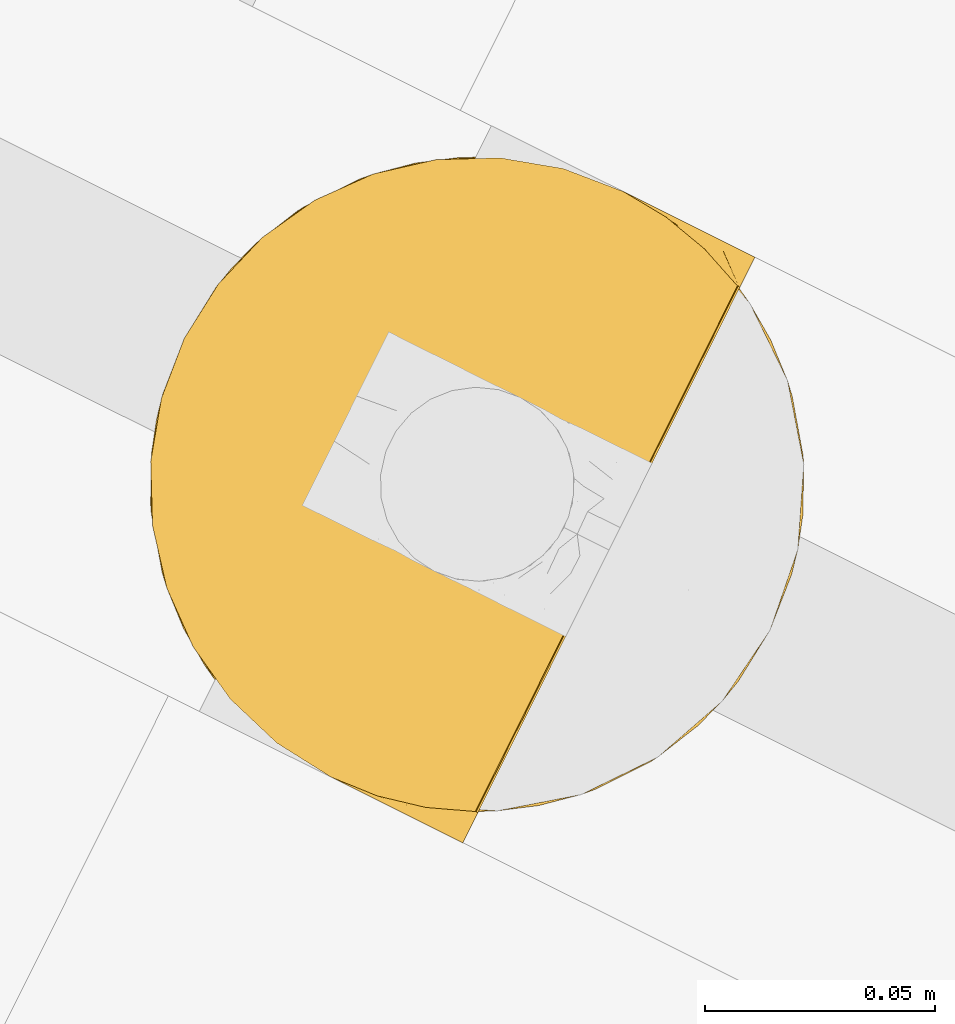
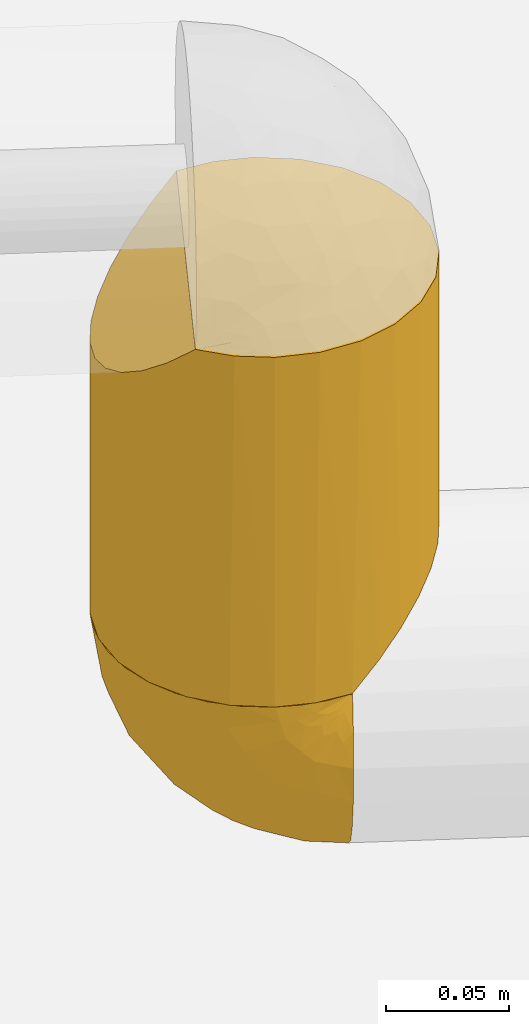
# One storey, part 53 of 91: 2 coverings.
"""IFC2X3 building model written with IfcOpenShell, lengths in metres."""

from ifc_helpers import new_model, entity, si_unit, converted_unit, derived_unit, direction, frame, origin, place, context, subcontext, project, spatial, faceted_brep, element, save


model = new_model("IFC2X3")

# Units and contexts
model_context = context("Model", 3, precision=1e-05, world=origin(), true_north=direction((0.894925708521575, 0.446215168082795)))
context_of_model = context(None, 3, precision=1e-05, world=origin(), true_north=direction((0.894925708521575, 0.446215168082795)))
body_context = subcontext(model_context, "Body", "Model", "MODEL_VIEW")
ifc_project = project(units=[si_unit("LENGTHUNIT", "METRE"), si_unit("AREAUNIT", "SQUARE_METRE"), si_unit("VOLUMEUNIT", "CUBIC_METRE"), converted_unit("PLANEANGLEUNIT", "DEGREE", entity("IfcRatioMeasure", 0.0174532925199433), si_unit("PLANEANGLEUNIT", "RADIAN"), dimensions=[0, 0, 0, 0, 0, 0, 0]), si_unit("MASSUNIT", "GRAM", prefix="KILO"), si_unit("TIMEUNIT", "SECOND"), si_unit("FREQUENCYUNIT", "HERTZ"), si_unit("THERMODYNAMICTEMPERATUREUNIT", "DEGREE_CELSIUS"), derived_unit("THERMALTRANSMITTANCEUNIT", [(si_unit("MASSUNIT", "GRAM", prefix="KILO"), 1), (si_unit("THERMODYNAMICTEMPERATUREUNIT", "KELVIN"), -1), (si_unit("TIMEUNIT", "SECOND"), -3)]), derived_unit("VOLUMETRICFLOWRATEUNIT", [(si_unit("LENGTHUNIT", "METRE"), 3), (si_unit("TIMEUNIT", "SECOND"), -1)]), si_unit("ELECTRICCURRENTUNIT", "AMPERE"), si_unit("ELECTRICVOLTAGEUNIT", "VOLT"), si_unit("POWERUNIT", "WATT"), si_unit("FORCEUNIT", "NEWTON", prefix="KILO"), si_unit("ILLUMINANCEUNIT", "LUX"), si_unit("LUMINOUSFLUXUNIT", "LUMEN"), si_unit("LUMINOUSINTENSITYUNIT", "CANDELA"), si_unit("PRESSUREUNIT", "PASCAL")], contexts=[model_context, context_of_model])

# Site, building, storey
site_placement = place(None, frame((218.228324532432, 584.720189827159, 0.0), z_axis=(0.0, 0.0, 1.0), x_axis=(0.446215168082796, 0.894925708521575, 0.0)))
site = spatial("IfcSite", under=ifc_project, at=site_placement, Name="Default", CompositionType="ELEMENT")
building_placement = place(site_placement, origin())
building = spatial("IfcBuilding", under=site, at=building_placement, CompositionType="ELEMENT")
storey_placement = place(building_placement, origin())
storey = spatial("IfcBuildingStorey", under=building, at=storey_placement, Name="0 - Piano Terra", CompositionType="ELEMENT", Elevation=0.0)

# Coverings
covering_1_placement = place(storey_placement, frame((-4.59454925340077, -4.63155392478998, 3.29290418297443)))
element("IfcCovering", 1, at=covering_1_placement, inside=storey, Name="Isolamento tubazione:Default", ObjectType="Isolamento tubazione:Default", PredefinedType="INSULATION", context=body_context, shape_type="Brep", body=[
    faceted_brep([(0.00159527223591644, 0.0726772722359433, 0.00159527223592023), (0.00401733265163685, 0.0910746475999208, 0.00159527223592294), (0.0111184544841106, 0.108218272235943, 0.00159527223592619), (0.0224147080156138, 0.122939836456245, 0.00159527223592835), (0.0371362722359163, 0.134236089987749, 0.00159527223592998), (0.0542798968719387, 0.141337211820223, 0.00159527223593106), (0.0726772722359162, 0.143759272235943, 0.0015952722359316), (0.0910746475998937, 0.141337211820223, 0.00159527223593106), (0.108218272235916, 0.134236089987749, 0.00159527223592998), (0.122939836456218, 0.122939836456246, 0.00159527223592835), (0.134236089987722, 0.108218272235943, 0.00159527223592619), (0.141337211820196, 0.0910746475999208, 0.00159527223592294), (0.143759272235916, 0.0726772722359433, 0.00159527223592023), (0.141829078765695, 0.0562249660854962, 0.00159527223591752), (0.136148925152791, 0.0406772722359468, 0.00159527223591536), (0.0092056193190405, 0.0406772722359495, 0.00159527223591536), (0.00352546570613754, 0.0562249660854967, 0.00159527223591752), (0.14182908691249, 0.0891295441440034, 0.175105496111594), (0.136148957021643, 0.104677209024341, 0.175105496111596), (0.00920558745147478, 0.104677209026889, 0.175105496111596), (0.00352545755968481, 0.0891295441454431, 0.175105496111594), (0.00159527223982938, 0.0726772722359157, 0.175105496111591), (0.00401733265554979, 0.0542798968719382, 0.175105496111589), (0.0111184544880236, 0.0371362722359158, 0.175105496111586), (0.0224147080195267, 0.0224147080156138, 0.175105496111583), (0.0371362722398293, 0.0111184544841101, 0.175105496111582), (0.0542798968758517, 0.00401733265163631, 0.175105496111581), (0.0726772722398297, 0.0015952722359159, 0.17510549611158), (0.0910746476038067, 0.00401733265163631, 0.175105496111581), (0.10821827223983, 0.0111184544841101, 0.175105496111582), (0.122939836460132, 0.0224147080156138, 0.175105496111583), (0.134236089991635, 0.0371362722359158, 0.175105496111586), (0.141337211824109, 0.0542798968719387, 0.175105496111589), (0.143759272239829, 0.0726772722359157, 0.175105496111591), (0.0161305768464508, 0.115748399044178, 0.164034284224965), (0.0249640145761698, 0.12536594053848, 0.154416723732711), (0.0354077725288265, 0.133205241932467, 0.146577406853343), (0.0471093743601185, 0.139001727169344, 0.140780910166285), (0.0596738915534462, 0.142559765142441, 0.137222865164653), (0.0726772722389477, 0.143759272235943, 0.136023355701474), (0.0856806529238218, 0.14255976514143, 0.137222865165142), (0.0982451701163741, 0.139001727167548, 0.140780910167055), (0.109946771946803, 0.133205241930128, 0.146577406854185), (0.120390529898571, 0.125365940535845, 0.15441672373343), (0.129223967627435, 0.115748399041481, 0.164034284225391), (0.12922393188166, 0.0296060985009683, 0.0126664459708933), (0.120390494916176, 0.0199885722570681, 0.0222839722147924), (0.0982451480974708, 0.00635280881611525, 0.0359197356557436), (0.0856806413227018, 0.00279477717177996, 0.0394777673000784), (0.0726772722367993, 0.00159527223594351, 0.0406772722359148), (0.109946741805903, 0.0121492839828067, 0.0301232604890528), (0.0596739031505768, 0.00279477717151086, 0.0394777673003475), (0.0471093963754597, 0.00635280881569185, 0.0359197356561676), (0.0249640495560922, 0.0199885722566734, 0.0222839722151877), (0.0354078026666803, 0.0121492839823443, 0.0301232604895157), (0.01613061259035, 0.029606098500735, 0.0126664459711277)], [[[0, 1, 2, 3, 4, 5, 6, 7, 8, 9, 10, 11, 12, 13, 14, 15, 16]], [[17, 18, 19, 20, 21, 22, 23, 24, 25, 26, 27, 28, 29, 30, 31, 32, 33]], [[0, 21, 20]], [[20, 19, 1]], [[34, 2, 19]], [[1, 0, 20]], [[2, 1, 19]], [[34, 3, 2]], [[34, 35, 3]], [[36, 4, 3]], [[37, 38, 5]], [[36, 37, 4]], [[4, 37, 5]], [[6, 5, 38]], [[39, 6, 38]], [[36, 3, 35]], [[40, 41, 7]], [[8, 42, 9]], [[41, 42, 8]], [[39, 40, 6]], [[6, 40, 7]], [[41, 8, 7]], [[42, 43, 9]], [[10, 44, 18]], [[11, 18, 17]], [[12, 17, 33]], [[9, 44, 10]], [[10, 18, 11]], [[17, 12, 11]], [[44, 9, 43]], [[13, 33, 32]], [[14, 32, 31]], [[45, 31, 30]], [[12, 33, 13]], [[14, 13, 32]], [[45, 14, 31]], [[30, 46, 45]], [[47, 29, 28]], [[28, 27, 48]], [[49, 48, 27]], [[46, 30, 50]], [[48, 47, 28]], [[50, 29, 47]], [[50, 30, 29]], [[51, 49, 27]], [[51, 27, 26]], [[52, 26, 25]], [[52, 51, 26]], [[24, 53, 54]], [[52, 25, 54]], [[54, 25, 24]], [[55, 24, 23]], [[15, 23, 22]], [[16, 22, 21]], [[55, 23, 15]], [[15, 22, 16]], [[21, 0, 16]], [[24, 55, 53]], [[54, 53, 55, 15, 14, 45, 46, 50, 47, 48, 49, 51, 52]], [[36, 35, 34, 19, 18, 44, 43, 42, 41, 40, 39, 38, 37]]]),
])
covering_2_placement = place(storey_placement, frame((-4.59456725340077, -4.59247192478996, 3.18980418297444)))
element("IfcCovering", 2, at=covering_2_placement, inside=storey, Name="Isolamento tubazione:Default", ObjectType="Isolamento tubazione:Default", PredefinedType="INSULATION", context=body_context, shape_type="Brep", body=[
    faceted_brep([(0.138380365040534, 0.0608106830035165, 0.104695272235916), (0.131807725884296, 0.0731038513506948, 0.104695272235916), (0.122963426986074, 0.0838777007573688, 0.104695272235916), (0.112187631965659, 0.0927185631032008, 0.104695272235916), (0.0998945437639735, 0.0992870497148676, 0.104695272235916), (0.0865565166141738, 0.103331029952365, 0.104695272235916), (0.072695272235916, 0.104695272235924, 0.104695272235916), (0.058820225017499, 0.103328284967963, 0.104695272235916), (0.0454798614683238, 0.0992803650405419, 0.104695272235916), (0.033186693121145, 0.0927077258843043, 0.104695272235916), (0.0224128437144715, 0.0838634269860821, 0.104695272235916), (0.0135719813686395, 0.0730876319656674, 0.104695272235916), (0.00700349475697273, 0.0607945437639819, 0.104695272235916), (0.00295951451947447, 0.0474565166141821, 0.104695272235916), (0.0015952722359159, 0.0335952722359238, 0.104695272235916), (0.0024190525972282, 0.0228034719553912, 0.104695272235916), (0.0048679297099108, 0.0122724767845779, 0.104695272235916), (0.00888664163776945, 0.00223177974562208, 0.104695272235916), (0.0123688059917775, 0.00223177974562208, 0.104695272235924), (0.0178744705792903, 0.00223177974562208, 0.104695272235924), (0.0223683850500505, 0.00223177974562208, 0.104695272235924), (0.0268622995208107, 0.00223177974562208, 0.104695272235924), (0.0313562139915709, 0.00223177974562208, 0.104695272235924), (0.0358501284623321, 0.00223177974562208, 0.104695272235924), (0.0403440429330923, 0.00223177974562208, 0.104695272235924), (0.0448379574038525, 0.00223177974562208, 0.104695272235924), (0.0493318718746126, 0.00223177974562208, 0.104695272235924), (0.0538257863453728, 0.00223177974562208, 0.104695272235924), (0.0583197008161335, 0.00223177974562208, 0.104695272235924), (0.0628136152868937, 0.00223177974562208, 0.104695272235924), (0.0673075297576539, 0.00223177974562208, 0.104695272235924), (0.0718014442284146, 0.00223177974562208, 0.104695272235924), (0.0762953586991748, 0.00223177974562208, 0.104695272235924), (0.080789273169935, 0.00223177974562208, 0.104695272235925), (0.084271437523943, 0.00223177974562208, 0.104695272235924), (0.0877536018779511, 0.00223177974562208, 0.104695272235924), (0.0912357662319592, 0.00223177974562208, 0.104695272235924), (0.0947179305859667, 0.00223177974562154, 0.104695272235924), (0.0982000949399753, 0.00223177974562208, 0.104695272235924), (0.101682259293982, 0.00223177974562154, 0.104695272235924), (0.105164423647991, 0.00223177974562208, 0.104695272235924), (0.108646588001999, 0.00223177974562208, 0.104695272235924), (0.112128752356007, 0.00223177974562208, 0.104695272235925), (0.115610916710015, 0.00223177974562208, 0.104695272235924), (0.119093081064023, 0.00223177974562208, 0.104695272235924), (0.122575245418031, 0.00223177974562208, 0.104695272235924), (0.126057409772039, 0.00223177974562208, 0.104695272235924), (0.129539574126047, 0.00223177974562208, 0.104695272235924), (0.133021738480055, 0.00223177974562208, 0.104695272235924), (0.136503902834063, 0.00223177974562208, 0.104695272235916), (0.140525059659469, 0.0122802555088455, 0.104695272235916), (0.1429727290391, 0.0228115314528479, 0.104695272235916), (0.143795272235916, 0.0335952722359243, 0.104695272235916), (0.142428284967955, 0.0474703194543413, 0.104695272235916), (0.00344210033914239, 0.0015952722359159, 0.0887952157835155), (0.00159527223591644, 0.0015952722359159, 0.072695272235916), (0.00401794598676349, 0.0015952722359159, 0.0542932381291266), (0.0111208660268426, 0.0015952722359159, 0.0371452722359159), (0.0224199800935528, 0.0015952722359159, 0.0224199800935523), (0.0371452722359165, 0.0015952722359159, 0.0111208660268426), (0.0542932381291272, 0.0015952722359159, 0.00401794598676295), (0.072695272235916, 0.0015952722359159, 0.0015952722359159), (0.0910973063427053, 0.0015952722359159, 0.00401794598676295), (0.108245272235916, 0.0015952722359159, 0.0111208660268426), (0.12297056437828, 0.0015952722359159, 0.0224199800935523), (0.13426967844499, 0.0015952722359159, 0.0371452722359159), (0.141372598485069, 0.0015952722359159, 0.0542932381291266), (0.143795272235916, 0.0015952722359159, 0.072695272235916), (0.14194844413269, 0.0015952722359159, 0.088795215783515), (0.136503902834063, 0.0015952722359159, 0.104058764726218), (0.133021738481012, 0.0015952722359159, 0.104058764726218), (0.128527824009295, 0.0015952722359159, 0.104058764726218), (0.124539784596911, 0.0015952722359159, 0.104058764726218), (0.120551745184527, 0.0015952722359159, 0.104058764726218), (0.116563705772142, 0.0015952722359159, 0.104058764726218), (0.112575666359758, 0.0015952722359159, 0.104058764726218), (0.108587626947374, 0.0015952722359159, 0.104058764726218), (0.10459958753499, 0.0015952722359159, 0.104058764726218), (0.100611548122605, 0.0015952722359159, 0.104058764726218), (0.0966235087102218, 0.0015952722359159, 0.104058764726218), (0.0926354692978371, 0.0015952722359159, 0.104058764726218), (0.0886474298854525, 0.0015952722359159, 0.104058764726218), (0.0846593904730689, 0.0015952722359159, 0.104058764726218), (0.0806713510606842, 0.0015952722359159, 0.104058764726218), (0.0766833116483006, 0.0015952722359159, 0.104058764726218), (0.072695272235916, 0.0015952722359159, 0.104058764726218), (0.0682013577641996, 0.0015952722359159, 0.104058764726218), (0.0637074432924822, 0.0015952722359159, 0.104058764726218), (0.0592135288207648, 0.0015952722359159, 0.104058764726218), (0.0547196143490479, 0.00159527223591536, 0.104058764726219), (0.050225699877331, 0.0015952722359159, 0.104058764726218), (0.0457317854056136, 0.0015952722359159, 0.104058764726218), (0.0412378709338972, 0.00159527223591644, 0.104058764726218), (0.0367439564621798, 0.0015952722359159, 0.104058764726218), (0.033261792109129, 0.0015952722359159, 0.104058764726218), (0.0297796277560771, 0.0015952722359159, 0.104058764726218), (0.0262974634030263, 0.0015952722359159, 0.104058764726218), (0.0228152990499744, 0.0015952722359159, 0.104058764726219), (0.0193331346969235, 0.0015952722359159, 0.104058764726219), (0.0158509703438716, 0.00159527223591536, 0.104058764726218), (0.0123688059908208, 0.0015952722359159, 0.104058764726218), (0.00888664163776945, 0.0015952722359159, 0.104058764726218), (0.118228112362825, 0.00205536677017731, 0.104255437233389), (0.122545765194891, 0.00201674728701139, 0.104218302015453), (0.0397509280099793, 0.00203217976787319, 0.104232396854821), (0.0434848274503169, 0.00202232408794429, 0.104223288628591), (0.0586470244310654, 0.00204498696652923, 0.104244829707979), (0.0785423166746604, 0.00204894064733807, 0.104248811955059), (0.0745557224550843, 0.00204230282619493, 0.104242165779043), (0.0141098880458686, 0.00204535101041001, 0.10424519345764), (0.0179703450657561, 0.0020129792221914, 0.104214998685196), (0.136503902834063, 0.00204535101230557, 0.104245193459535), (0.131280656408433, 0.00204535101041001, 0.10424519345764), (0.00888664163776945, 0.0021888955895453, 0.104591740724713), (0.00888664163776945, 0.00204535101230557, 0.104245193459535), (0.102605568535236, 0.00202301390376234, 0.104223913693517), (0.0213229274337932, 0.00198794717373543, 0.104194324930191), (0.024615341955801, 0.00205780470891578, 0.104258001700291), (0.0350028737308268, 0.0020289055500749, 0.104229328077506), (0.0929768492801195, 0.00206524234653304, 0.104266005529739), (0.0825276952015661, 0.00204238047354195, 0.104242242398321), (0.0622205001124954, 0.00203217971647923, 0.10423239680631), (0.0659543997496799, 0.00202232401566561, 0.104223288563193), (0.0706144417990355, 0.00202449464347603, 0.104225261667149), (0.0474636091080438, 0.00204876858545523, 0.10424863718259), (0.0513996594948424, 0.00206512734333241, 0.104265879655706), (0.03171346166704, 0.0019798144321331, 0.104188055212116), (0.0968570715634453, 0.00207579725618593, 0.104277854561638), (0.114495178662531, 0.00201172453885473, 0.104213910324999), (0.127284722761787, 0.00206937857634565, 0.104270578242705), (0.136503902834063, 0.0020956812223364, 0.104366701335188), (0.136503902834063, 0.00214601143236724, 0.104488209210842), (0.136503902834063, 0.00218889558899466, 0.104591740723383), (0.00888664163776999, 0.00214601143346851, 0.104488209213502), (0.00888664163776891, 0.0020956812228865, 0.104366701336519), (0.136503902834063, 0.00169880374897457, 0.10410164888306), (0.136503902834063, 0.00180233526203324, 0.104144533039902), (0.136503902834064, 0.00192384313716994, 0.104194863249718), (0.00888664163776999, 0.00192384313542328, 0.104194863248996), (0.00888664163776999, 0.00180233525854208, 0.104144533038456), (0.00888664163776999, 0.00169880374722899, 0.104101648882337), (0.110760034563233, 0.00205344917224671, 0.104253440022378), (0.106694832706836, 0.00204127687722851, 0.104241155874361), (0.0866534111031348, 0.00202562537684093, 0.10422629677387), (0.0284622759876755, 0.00205107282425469, 0.104250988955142), (0.0550728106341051, 0.00205522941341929, 0.104255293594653), (0.00526579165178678, 0.00412512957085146, 0.0955895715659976), (0.0015952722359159, 0.012636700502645, 0.0756538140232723), (0.00344210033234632, 0.00840316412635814, 0.0903264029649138), (0.0015952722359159, 0.0175952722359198, 0.0769824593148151), (0.00572201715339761, 0.00780383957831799, 0.0994469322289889), (0.00511515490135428, 0.00781942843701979, 0.0969886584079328), (0.00262104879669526, 0.0059764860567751, 0.0852157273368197), (0.00324065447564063, 0.0143635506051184, 0.0937883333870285), (0.00344302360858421, 0.0166312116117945, 0.0995371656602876), (0.00203653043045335, 0.0244809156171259, 0.0971703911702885), (0.0015952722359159, 0.0293080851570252, 0.0886952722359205), (0.0022700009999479, 0.0211833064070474, 0.0941883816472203), (0.0015952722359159, 0.0316923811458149, 0.0975935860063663), (0.0015952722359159, 0.0314516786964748, 0.0966952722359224), (0.0015952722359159, 0.0234516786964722, 0.0828388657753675), (0.00428246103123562, 0.012543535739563, 0.0983827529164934), (0.00261591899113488, 0.0136875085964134, 0.088769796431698), (0.00596919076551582, 0.00495037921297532, 0.0980466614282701), (0.0015952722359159, 0.00869695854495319, 0.0745981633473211), (0.0015952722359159, 0.00711598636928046, 0.0741745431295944), (0.0560754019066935, 0.0896377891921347, 0.0549374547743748), (0.072695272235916, 0.099649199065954, 0.072835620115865), (0.072695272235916, 0.0850049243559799, 0.0440946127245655), (0.00333916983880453, 0.0232156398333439, 0.0622318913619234), (0.00401794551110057, 0.0322780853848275, 0.0647086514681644), (0.00700743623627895, 0.0242534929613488, 0.0499934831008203), (0.0162878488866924, 0.0210799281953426, 0.0319775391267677), (0.0156137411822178, 0.0409572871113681, 0.0415723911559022), (0.0294123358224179, 0.0403762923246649, 0.0252477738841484), (0.00700743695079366, 0.0118767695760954, 0.0463859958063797), (0.00313012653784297, 0.0146614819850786, 0.059867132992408), (0.0391718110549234, 0.0866828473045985, 0.0631219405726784), (0.0495292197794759, 0.0717544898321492, 0.0345360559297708), (0.072695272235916, 0.0334549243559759, 0.00664134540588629), (0.0593302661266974, 0.0223828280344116, 0.00500701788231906), (0.0578920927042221, 0.0476943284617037, 0.0142207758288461), (0.0520505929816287, 0.0982939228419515, 0.0790684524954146), (0.00998578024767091, 0.0661225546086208, 0.0934073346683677), (0.00465388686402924, 0.0528987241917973, 0.0929552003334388), (0.00390542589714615, 0.0458977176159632, 0.081565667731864), (0.0454864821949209, 0.0289347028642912, 0.0109111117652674), (0.0294123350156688, 0.0198680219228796, 0.0181968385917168), (0.017727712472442, 0.0603936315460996, 0.054827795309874), (0.00898706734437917, 0.0535431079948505, 0.068059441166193), (0.0228237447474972, 0.0747432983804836, 0.0661639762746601), (0.00397603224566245, 0.0400661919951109, 0.0723759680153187), (0.00998577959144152, 0.0626158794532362, 0.0808693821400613), (0.0275825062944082, 0.0856486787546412, 0.0824199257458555), (0.0171739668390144, 0.0751851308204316, 0.0841133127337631), (0.072695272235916, 0.0621959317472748, 0.0212856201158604), (0.0428093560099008, 0.0484394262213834, 0.0203118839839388), (0.0391722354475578, 0.0931594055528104, 0.080523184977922), (0.0319863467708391, 0.0705627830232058, 0.0464184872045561), (0.0333613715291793, 0.0572917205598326, 0.0324415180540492), (0.0104667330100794, 0.0462218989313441, 0.0555385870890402), (0.143795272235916, 0.0316923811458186, 0.0975935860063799), (0.140732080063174, 0.0525258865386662, 0.0913710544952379), (0.0854829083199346, 0.0217173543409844, 0.00476036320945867), (0.0933248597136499, 0.0992025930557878, 0.0827615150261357), (0.0999040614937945, 0.0373979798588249, 0.0138047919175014), (0.0858884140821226, 0.0419310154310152, 0.0111562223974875), (0.0949205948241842, 0.0556262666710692, 0.0210994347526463), (0.0999040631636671, 0.0176206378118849, 0.00833085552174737), (0.117134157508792, 0.0860409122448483, 0.0817733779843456), (0.106202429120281, 0.0901575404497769, 0.0711302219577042), (0.106202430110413, 0.0949739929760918, 0.0888743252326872), (0.0959592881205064, 0.0717305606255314, 0.0345599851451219), (0.14253413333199, 0.0189430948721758, 0.062813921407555), (0.143795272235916, 0.0175952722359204, 0.0769824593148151), (0.143795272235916, 0.012636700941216, 0.0756538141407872), (0.143795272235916, 0.00959527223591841, 0.0748388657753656), (0.136601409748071, 0.0307270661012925, 0.0486500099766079), (0.138383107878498, 0.0183833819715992, 0.0479164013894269), (0.129102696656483, 0.0353028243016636, 0.0373801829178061), (0.115978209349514, 0.0239911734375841, 0.0191716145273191), (0.129102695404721, 0.0175585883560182, 0.031124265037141), (0.114685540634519, 0.0485711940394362, 0.0286599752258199), (0.1391712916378, 0.0464806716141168, 0.0692036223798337), (0.14109731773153, 0.0473971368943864, 0.0813676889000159), (0.142831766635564, 0.0366850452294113, 0.078707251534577), (0.117792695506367, 0.0691008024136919, 0.0498649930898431), (0.123128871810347, 0.0747878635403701, 0.0674667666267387), (0.130608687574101, 0.0585950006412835, 0.0586949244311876), (0.127650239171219, 0.0761973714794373, 0.0851784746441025), (0.135396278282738, 0.0650713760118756, 0.0884455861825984), (0.135396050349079, 0.0606791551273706, 0.0763682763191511), (0.0899873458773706, 0.0904000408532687, 0.0566569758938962), (0.104007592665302, 0.08121652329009, 0.0513608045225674), (0.143795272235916, 0.0314516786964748, 0.0966952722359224), (0.143795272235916, 0.0293080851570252, 0.0886952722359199), (0.108006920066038, 0.06910582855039, 0.0397017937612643), (0.142519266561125, 0.0101596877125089, 0.0601005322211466), (0.125152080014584, 0.0523114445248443, 0.0428323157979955), (0.133780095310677, 0.0458714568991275, 0.0525790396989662), (0.139699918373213, 0.0351858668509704, 0.06016087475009), (0.143795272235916, 0.0234516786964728, 0.0828388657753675), (0.143795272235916, 0.00711598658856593, 0.0741745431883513), (0.143269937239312, 0.00604681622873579, 0.081750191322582), (0.139559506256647, 0.00913561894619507, 0.102600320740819), (0.140018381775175, 0.00967502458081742, 0.100433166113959), (0.141949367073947, 0.0166378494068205, 0.0995320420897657), (0.14338070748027, 0.0120139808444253, 0.0827053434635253), (0.140181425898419, 0.00764012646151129, 0.0972106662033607), (0.139663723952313, 0.00780221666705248, 0.0994658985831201), (0.141948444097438, 0.00840316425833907, 0.0903264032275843), (0.142311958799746, 0.0168494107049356, 0.0960116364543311), (0.142150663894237, 0.0143639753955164, 0.0937833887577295), (0.142791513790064, 0.0137438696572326, 0.0886882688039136), (0.141192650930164, 0.0044345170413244, 0.0920715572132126)], [[[0, 1, 2, 3, 4, 5, 6, 7, 8, 9, 10, 11, 12, 13, 14, 15, 16, 17, 18, 19, 20, 21, 22, 23, 24, 25, 26, 27, 28, 29, 30, 31, 32, 33, 34, 35, 36, 37, 38, 39, 40, 41, 42, 43, 44, 45, 46, 47, 48, 49, 50, 51, 52, 53]], [[54, 55, 56, 57, 58, 59, 60, 61, 62, 63, 64, 65, 66, 67, 68, 69, 70, 71, 72, 73, 74, 75, 76, 77, 78, 79, 80, 81, 82, 83, 84, 85, 86, 87, 88, 89, 90, 91, 92, 93, 94, 95, 96, 97, 98, 99, 100, 101]], [[102, 73, 103]], [[24, 104, 105]], [[89, 88, 106]], [[107, 32, 108]], [[109, 99, 110]], [[33, 32, 107]], [[111, 48, 47, 112]], [[18, 17, 113]], [[18, 114, 109, 19]], [[99, 109, 114, 100]], [[70, 111, 112, 71]], [[39, 38, 115, 40]], [[20, 116, 117]], [[118, 93, 104]], [[79, 119, 81, 80]], [[120, 33, 107]], [[29, 121, 122]], [[108, 123, 85]], [[110, 19, 109]], [[108, 32, 31]], [[107, 108, 84]], [[122, 30, 29]], [[25, 124, 26]], [[92, 91, 105]], [[125, 90, 89]], [[22, 126, 118]], [[127, 37, 119]], [[102, 43, 128]], [[112, 47, 129]], [[72, 129, 103]], [[48, 111, 130, 131, 132, 49]], [[18, 113, 133, 134, 114]], [[70, 69, 135, 136, 137, 111]], [[100, 114, 138, 139, 140, 101]], [[71, 112, 129]], [[103, 73, 72]], [[25, 24, 105]], [[129, 46, 103]], [[72, 71, 129]], [[20, 117, 21]], [[110, 98, 116]], [[116, 20, 19]], [[75, 128, 141]], [[142, 115, 77]], [[94, 126, 95]], [[128, 75, 74]], [[102, 103, 44]], [[103, 46, 45, 44]], [[120, 143, 34]], [[84, 83, 107]], [[143, 119, 36]], [[83, 120, 107]], [[85, 84, 108]], [[86, 122, 87]], [[31, 123, 108]], [[123, 86, 85]], [[31, 30, 123]], [[122, 86, 123]], [[35, 34, 143, 36]], [[82, 143, 120]], [[81, 143, 82]], [[120, 83, 82]], [[143, 81, 119]], [[36, 119, 37]], [[127, 115, 38]], [[42, 41, 141]], [[79, 127, 119]], [[78, 115, 127]], [[77, 115, 78]], [[127, 79, 78]], [[142, 40, 115]], [[41, 142, 141]], [[142, 76, 141]], [[43, 42, 128]], [[74, 73, 102]], [[75, 141, 76]], [[142, 77, 76]], [[128, 42, 141]], [[102, 128, 74]], [[117, 96, 144]], [[144, 21, 117]], [[97, 117, 116]], [[94, 93, 118]], [[23, 22, 118]], [[22, 21, 144]], [[95, 126, 144]], [[126, 94, 118]], [[24, 23, 104]], [[38, 37, 127]], [[110, 99, 98]], [[104, 92, 105]], [[125, 124, 90]], [[91, 124, 105]], [[105, 124, 25]], [[91, 90, 124]], [[125, 26, 124]], [[125, 27, 26]], [[145, 27, 125]], [[92, 104, 93]], [[118, 104, 23]], [[121, 87, 122]], [[30, 122, 123]], [[106, 145, 89]], [[88, 87, 121]], [[145, 125, 89]], [[121, 29, 28]], [[145, 28, 27]], [[106, 28, 145]], [[34, 33, 120]], [[129, 47, 46]], [[144, 126, 22]], [[95, 144, 96]], [[117, 97, 96]], [[142, 41, 40]], [[97, 116, 98]], [[19, 110, 116]], [[44, 43, 102]], [[106, 121, 28]], [[121, 106, 88]], [[101, 140, 139, 146]], [[147, 148, 149]], [[114, 150, 151]], [[54, 152, 55]], [[151, 138, 114]], [[113, 17, 16]], [[151, 150, 153]], [[133, 113, 154]], [[154, 113, 16]], [[155, 156, 157]], [[15, 14, 158, 159]], [[159, 155, 15]], [[160, 153, 157]], [[153, 150, 161]], [[151, 162, 148]], [[16, 15, 154]], [[146, 152, 54]], [[153, 161, 157]], [[163, 146, 139]], [[152, 146, 148]], [[101, 146, 54]], [[148, 147, 152]], [[152, 147, 164, 165, 55]], [[163, 139, 138]], [[162, 151, 153]], [[163, 151, 148]], [[153, 160, 162]], [[149, 148, 162]], [[151, 163, 138]], [[149, 162, 160]], [[146, 163, 148]], [[161, 133, 154]], [[161, 134, 133]], [[150, 114, 134]], [[134, 161, 150]], [[157, 161, 154]], [[155, 157, 154]], [[157, 156, 160]], [[15, 155, 154]], [[156, 155, 159]], [[166, 167, 168]], [[169, 170, 171]], [[172, 173, 174]], [[171, 175, 176]], [[177, 166, 178]], [[179, 180, 181]], [[7, 167, 182]], [[8, 7, 182]], [[183, 184, 12]], [[185, 156, 159, 158]], [[186, 59, 187]], [[60, 180, 61]], [[188, 189, 190]], [[59, 186, 60]], [[57, 175, 172]], [[158, 14, 13]], [[59, 58, 187]], [[185, 191, 156]], [[192, 189, 185]], [[180, 60, 186]], [[193, 10, 9]], [[194, 10, 193]], [[185, 158, 184]], [[184, 13, 12]], [[57, 172, 58]], [[178, 168, 195]], [[196, 181, 186]], [[158, 13, 184]], [[192, 194, 190]], [[197, 182, 177]], [[197, 9, 8]], [[182, 166, 177]], [[57, 56, 175]], [[188, 190, 198]], [[7, 6, 167]], [[193, 197, 177]], [[194, 192, 183]], [[184, 192, 185]], [[188, 199, 173]], [[11, 183, 12]], [[173, 172, 171]], [[181, 195, 179]], [[187, 172, 174]], [[56, 55, 165, 164]], [[189, 192, 190]], [[160, 156, 191]], [[176, 169, 171]], [[160, 170, 149]], [[189, 188, 200]], [[11, 10, 194]], [[184, 183, 192]], [[194, 183, 11]], [[194, 193, 190]], [[193, 177, 190]], [[198, 190, 177]], [[177, 178, 198]], [[178, 196, 199]], [[200, 171, 170]], [[199, 188, 198]], [[167, 166, 182]], [[178, 166, 168]], [[172, 187, 58]], [[186, 187, 174]], [[200, 188, 173]], [[191, 185, 189]], [[171, 200, 173]], [[191, 200, 170]], [[200, 191, 189]], [[160, 191, 170]], [[176, 56, 164]], [[172, 175, 171]], [[56, 176, 175]], [[176, 164, 147, 149]], [[176, 149, 169]], [[149, 170, 169]], [[196, 186, 174]], [[178, 195, 181]], [[199, 196, 174]], [[178, 181, 196]], [[173, 199, 174]], [[178, 199, 198]], [[9, 197, 193]], [[8, 182, 197]], [[181, 180, 186]], [[61, 180, 179]], [[53, 201, 202]], [[61, 179, 203]], [[4, 204, 5]], [[205, 203, 206]], [[206, 207, 205]], [[208, 203, 205]], [[209, 210, 211]], [[212, 195, 168]], [[213, 214, 215, 216]], [[217, 218, 219]], [[63, 220, 64]], [[221, 218, 65]], [[222, 219, 220]], [[221, 65, 64]], [[220, 63, 208]], [[223, 224, 225]], [[226, 227, 228]], [[229, 230, 231]], [[204, 232, 167]], [[233, 232, 210]], [[2, 1, 229]], [[2, 229, 209]], [[233, 212, 232]], [[204, 4, 211]], [[6, 5, 167]], [[62, 208, 63]], [[167, 5, 204]], [[53, 52, 201]], [[230, 202, 231]], [[3, 2, 209]], [[230, 1, 0]], [[227, 210, 209]], [[224, 223, 231]], [[0, 53, 202]], [[65, 218, 66]], [[226, 233, 227]], [[204, 210, 232]], [[224, 201, 234, 235]], [[168, 167, 232]], [[3, 211, 4]], [[233, 236, 212]], [[218, 213, 237]], [[212, 168, 232]], [[219, 222, 238]], [[239, 223, 240]], [[222, 220, 205]], [[221, 220, 219]], [[222, 205, 207]], [[238, 226, 228]], [[213, 240, 214]], [[66, 237, 67]], [[204, 211, 210]], [[209, 211, 3]], [[209, 229, 227]], [[229, 231, 227]], [[228, 227, 231]], [[223, 228, 231]], [[239, 219, 238]], [[224, 231, 202]], [[225, 240, 223]], [[220, 221, 64]], [[214, 240, 241]], [[218, 221, 219]], [[237, 213, 216]], [[213, 218, 217]], [[237, 216, 242, 67]], [[218, 237, 66]], [[201, 224, 202]], [[225, 224, 235]], [[235, 241, 225]], [[240, 225, 241]], [[227, 233, 210]], [[236, 233, 226]], [[238, 236, 226]], [[207, 236, 222]], [[203, 208, 62]], [[220, 208, 205]], [[61, 203, 62]], [[203, 179, 206]], [[179, 195, 206]], [[207, 195, 212]], [[195, 207, 206]], [[207, 212, 236]], [[238, 222, 236]], [[239, 238, 228]], [[223, 239, 228]], [[239, 240, 217]], [[1, 230, 229]], [[0, 202, 230]], [[239, 217, 219]], [[213, 217, 240]], [[243, 67, 242, 216, 215]], [[244, 245, 246]], [[214, 247, 215]], [[111, 248, 249]], [[137, 136, 250]], [[246, 51, 50]], [[246, 245, 251]], [[50, 244, 246]], [[246, 234, 51]], [[241, 252, 253]], [[130, 245, 131]], [[250, 247, 253]], [[235, 234, 251]], [[50, 132, 244]], [[68, 254, 69]], [[249, 130, 111]], [[50, 49, 132]], [[131, 244, 132]], [[245, 244, 131]], [[245, 249, 251]], [[254, 68, 243]], [[247, 243, 215]], [[111, 137, 248]], [[241, 253, 214]], [[250, 254, 243]], [[250, 243, 247]], [[67, 243, 68]], [[252, 241, 235]], [[253, 247, 214]], [[248, 250, 253]], [[252, 249, 248]], [[250, 248, 137]], [[252, 248, 253]], [[250, 136, 254]], [[254, 136, 135, 69]], [[252, 235, 251]], [[51, 234, 201, 52]], [[251, 249, 252]], [[130, 249, 245]], [[251, 234, 246]]]),
])

save(model, "model.ifc")
